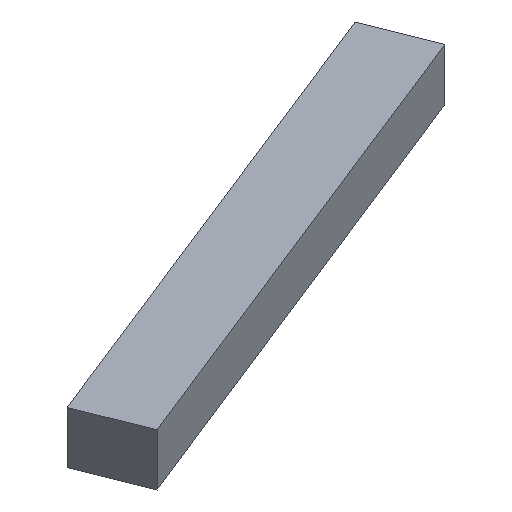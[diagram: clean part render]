
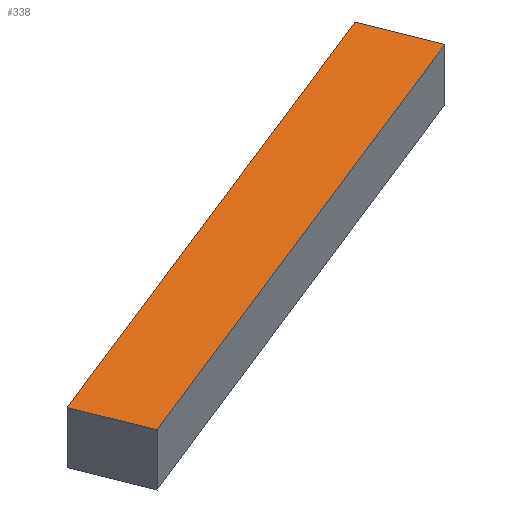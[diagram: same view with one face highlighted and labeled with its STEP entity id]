
A CAD part, isometric view. The second image highlights one B-rep face of the part: STEP entity #338.
In plain terms, the highlighted planar face has unit normal (0, 0, 1).
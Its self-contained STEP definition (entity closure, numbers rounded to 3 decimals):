
#24 = VERTEX_POINT('',#25);
#25 = CARTESIAN_POINT('',(-493.522,116.283,43.));
#32 = PLANE('',#33);
#33 = AXIS2_PLACEMENT_3D('',#34,#35,#36);
#34 = CARTESIAN_POINT('',(-493.522,116.283,37.));
#35 = DIRECTION('',(0.369,-0.929,0.));
#36 = DIRECTION('',(-0.929,-0.369,0.));
#44 = PLANE('',#45);
#45 = AXIS2_PLACEMENT_3D('',#46,#47,#48);
#46 = CARTESIAN_POINT('',(-496.478,123.717,37.));
#47 = DIRECTION('',(0.929,0.369,-0.));
#48 = DIRECTION('',(0.369,-0.929,0.));
#56 = EDGE_CURVE('',#24,#57,#59,.T.);
#57 = VERTEX_POINT('',#58);
#58 = CARTESIAN_POINT('',(-548.649,94.365,43.));
#59 = SURFACE_CURVE('',#60,(#64,#71),.PCURVE_S1.);
#60 = LINE('',#61,#62);
#61 = CARTESIAN_POINT('',(-493.522,116.283,43.));
#62 = VECTOR('',#63,1.);
#63 = DIRECTION('',(-0.929,-0.369,0.));
#64 = PCURVE('',#32,#65);
#65 = DEFINITIONAL_REPRESENTATION('',(#66),#70);
#66 = LINE('',#67,#68);
#67 = CARTESIAN_POINT('',(0.,-6.));
#68 = VECTOR('',#69,1.);
#69 = DIRECTION('',(1.,0.));
#70 = ( GEOMETRIC_REPRESENTATION_CONTEXT(2) 
PARAMETRIC_REPRESENTATION_CONTEXT() REPRESENTATION_CONTEXT('2D SPACE',''
  ) );
#71 = PCURVE('',#72,#77);
#72 = PLANE('',#73);
#73 = AXIS2_PLACEMENT_3D('',#74,#75,#76);
#74 = CARTESIAN_POINT('',(-522.564,109.041,43.));
#75 = DIRECTION('',(-0.,-0.,-1.));
#76 = DIRECTION('',(-1.,0.,0.));
#77 = DEFINITIONAL_REPRESENTATION('',(#78),#82);
#78 = LINE('',#79,#80);
#79 = CARTESIAN_POINT('',(-29.041,7.242));
#80 = VECTOR('',#81,1.);
#81 = DIRECTION('',(0.929,-0.369));
#82 = ( GEOMETRIC_REPRESENTATION_CONTEXT(2) 
PARAMETRIC_REPRESENTATION_CONTEXT() REPRESENTATION_CONTEXT('2D SPACE',''
  ) );
#100 = PLANE('',#101);
#101 = AXIS2_PLACEMENT_3D('',#102,#103,#104);
#102 = CARTESIAN_POINT('',(-548.649,94.365,37.));
#103 = DIRECTION('',(-0.929,-0.369,0.));
#104 = DIRECTION('',(-0.369,0.929,0.));
#142 = EDGE_CURVE('',#57,#143,#145,.T.);
#143 = VERTEX_POINT('',#144);
#144 = CARTESIAN_POINT('',(-551.605,101.799,43.));
#145 = SURFACE_CURVE('',#146,(#150,#157),.PCURVE_S1.);
#146 = LINE('',#147,#148);
#147 = CARTESIAN_POINT('',(-548.649,94.365,43.));
#148 = VECTOR('',#149,1.);
#149 = DIRECTION('',(-0.369,0.929,0.));
#150 = PCURVE('',#100,#151);
#151 = DEFINITIONAL_REPRESENTATION('',(#152),#156);
#152 = LINE('',#153,#154);
#153 = CARTESIAN_POINT('',(0.,-6.));
#154 = VECTOR('',#155,1.);
#155 = DIRECTION('',(1.,0.));
#156 = ( GEOMETRIC_REPRESENTATION_CONTEXT(2) 
PARAMETRIC_REPRESENTATION_CONTEXT() REPRESENTATION_CONTEXT('2D SPACE',''
  ) );
#157 = PCURVE('',#72,#158);
#158 = DEFINITIONAL_REPRESENTATION('',(#159),#163);
#159 = LINE('',#160,#161);
#160 = CARTESIAN_POINT('',(26.086,-14.676));
#161 = VECTOR('',#162,1.);
#162 = DIRECTION('',(0.369,0.929));
#163 = ( GEOMETRIC_REPRESENTATION_CONTEXT(2) 
PARAMETRIC_REPRESENTATION_CONTEXT() REPRESENTATION_CONTEXT('2D SPACE',''
  ) );
#181 = PLANE('',#182);
#182 = AXIS2_PLACEMENT_3D('',#183,#184,#185);
#183 = CARTESIAN_POINT('',(-551.605,101.799,37.));
#184 = DIRECTION('',(-0.369,0.929,0.));
#185 = DIRECTION('',(0.929,0.369,0.));
#218 = EDGE_CURVE('',#143,#219,#221,.T.);
#219 = VERTEX_POINT('',#220);
#220 = CARTESIAN_POINT('',(-496.478,123.717,43.));
#221 = SURFACE_CURVE('',#222,(#226,#233),.PCURVE_S1.);
#222 = LINE('',#223,#224);
#223 = CARTESIAN_POINT('',(-551.605,101.799,43.));
#224 = VECTOR('',#225,1.);
#225 = DIRECTION('',(0.929,0.369,0.));
#226 = PCURVE('',#181,#227);
#227 = DEFINITIONAL_REPRESENTATION('',(#228),#232);
#228 = LINE('',#229,#230);
#229 = CARTESIAN_POINT('',(0.,-6.));
#230 = VECTOR('',#231,1.);
#231 = DIRECTION('',(1.,0.));
#232 = ( GEOMETRIC_REPRESENTATION_CONTEXT(2) 
PARAMETRIC_REPRESENTATION_CONTEXT() REPRESENTATION_CONTEXT('2D SPACE',''
  ) );
#233 = PCURVE('',#72,#234);
#234 = DEFINITIONAL_REPRESENTATION('',(#235),#239);
#235 = LINE('',#236,#237);
#236 = CARTESIAN_POINT('',(29.041,-7.242));
#237 = VECTOR('',#238,1.);
#238 = DIRECTION('',(-0.929,0.369));
#239 = ( GEOMETRIC_REPRESENTATION_CONTEXT(2) 
PARAMETRIC_REPRESENTATION_CONTEXT() REPRESENTATION_CONTEXT('2D SPACE',''
  ) );
#289 = EDGE_CURVE('',#219,#24,#290,.T.);
#290 = SURFACE_CURVE('',#291,(#295,#302),.PCURVE_S1.);
#291 = LINE('',#292,#293);
#292 = CARTESIAN_POINT('',(-496.478,123.717,43.));
#293 = VECTOR('',#294,1.);
#294 = DIRECTION('',(0.369,-0.929,0.));
#295 = PCURVE('',#44,#296);
#296 = DEFINITIONAL_REPRESENTATION('',(#297),#301);
#297 = LINE('',#298,#299);
#298 = CARTESIAN_POINT('',(0.,-6.));
#299 = VECTOR('',#300,1.);
#300 = DIRECTION('',(1.,0.));
#301 = ( GEOMETRIC_REPRESENTATION_CONTEXT(2) 
PARAMETRIC_REPRESENTATION_CONTEXT() REPRESENTATION_CONTEXT('2D SPACE',''
  ) );
#302 = PCURVE('',#72,#303);
#303 = DEFINITIONAL_REPRESENTATION('',(#304),#308);
#304 = LINE('',#305,#306);
#305 = CARTESIAN_POINT('',(-26.086,14.676));
#306 = VECTOR('',#307,1.);
#307 = DIRECTION('',(-0.369,-0.929));
#308 = ( GEOMETRIC_REPRESENTATION_CONTEXT(2) 
PARAMETRIC_REPRESENTATION_CONTEXT() REPRESENTATION_CONTEXT('2D SPACE',''
  ) );
#338 = ADVANCED_FACE('',(#339),#72,.F.);
#339 = FACE_BOUND('',#340,.F.);
#340 = EDGE_LOOP('',(#341,#342,#343,#344));
#341 = ORIENTED_EDGE('',*,*,#56,.T.);
#342 = ORIENTED_EDGE('',*,*,#142,.T.);
#343 = ORIENTED_EDGE('',*,*,#218,.T.);
#344 = ORIENTED_EDGE('',*,*,#289,.T.);
